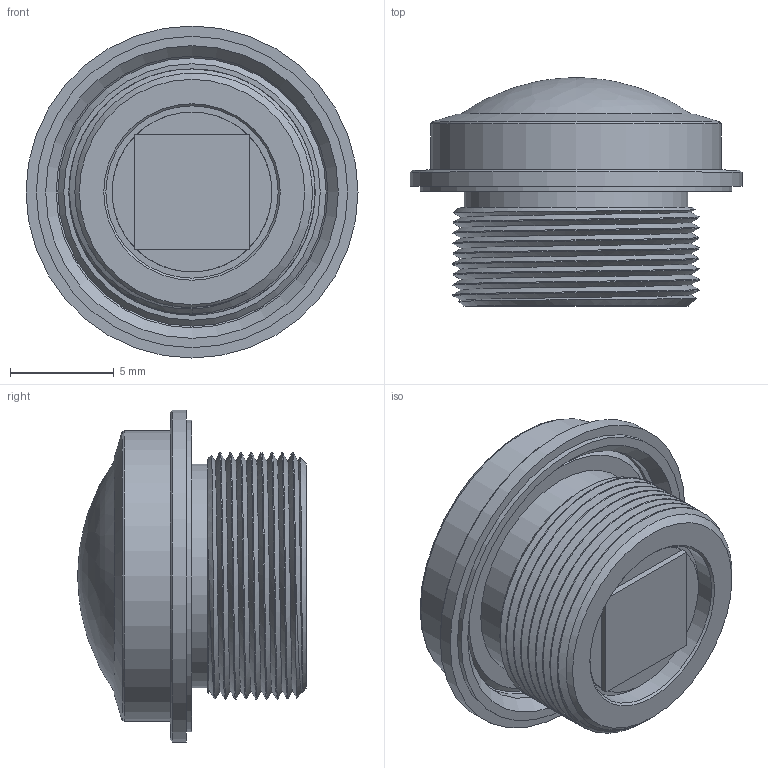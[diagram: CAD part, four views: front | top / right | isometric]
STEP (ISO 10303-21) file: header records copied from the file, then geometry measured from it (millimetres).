
FILE_DESCRIPTION(/* description */ (''),/* implementation_level */ '2;1');
FILE_NAME(/* name */ 'C:\Users\MaxHenkart\Desktop\Commonlands\Product\CIL914\CIL914-F2.3-M12B650.stp',/* time_stamp */ '2023-05-10T18:47:25-07:00',/* author */ ('MaxHenkart'),/* organization */ (''),/* preprocessor_version */ 'ST-DEVELOPER v19',/* originating_system */ 'Autodesk Inventor 2023',/* authorisation */ '');
FILE_SCHEMA (('AUTOMOTIVE_DESIGN { 1 0 10303 214 3 1 1 }'));
Length unit declared in the file: millimetre
Products named in the file (1): CIL914-F2.3-M12B650
Bounding box: 16 x 11 x 16 mm (x, y, z)
Volume: 1177 mm3; surface area: 1053.7 mm2
Topology: 1 solids, 2 shells, 55 faces, 117 edges, 73 vertices
Faces by surface type: plane 23, cylinder 18, cone 11, bspline 3
Full cylindrical faces by diameter (mm): 4.3 x1, 7.7 x1, 8.3 x1, 10.759 x1, 11.4 x1, 11.86 x7, 13.09 x1, 14 x1, 15 x1, 16 x1
Entity records: 2778 total; most frequent: CARTESIAN_POINT 1579, DIRECTION 237, ORIENTED_EDGE 234, EDGE_CURVE 117, AXIS2_PLACEMENT_3D 95, VERTEX_POINT 73, EDGE_LOOP 62, FACE_OUTER_BOUND 55
